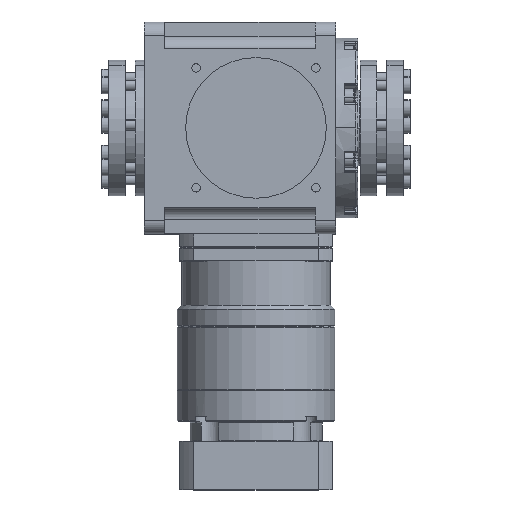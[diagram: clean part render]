
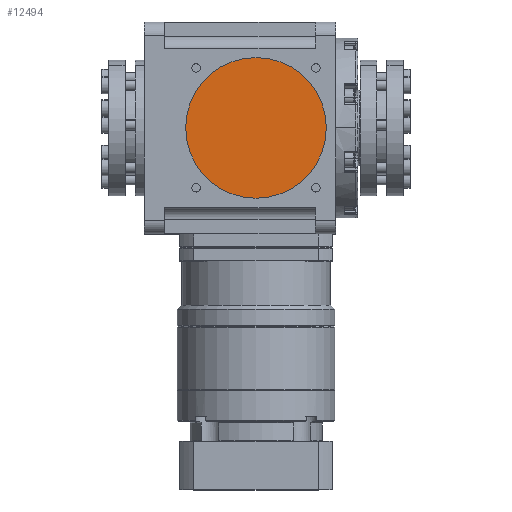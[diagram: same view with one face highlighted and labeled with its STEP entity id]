
A CAD part, top view. The second image highlights one B-rep face of the part: STEP entity #12494.
In plain terms, the highlighted planar face has unit normal (0, 0, 1).
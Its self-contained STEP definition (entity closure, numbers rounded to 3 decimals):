
#477 = DIRECTION ( 'NONE',  ( -1., 0., 0. ) ) ;
#850 = CARTESIAN_POINT ( 'NONE',  ( 60.5, 0., 58.5 ) ) ;
#1067 = ORIENTED_EDGE ( 'NONE', *, *, #7252, .T. ) ;
#3970 = DIRECTION ( 'NONE',  ( 0., 0., 1. ) ) ;
#6564 = AXIS2_PLACEMENT_3D ( 'NONE', #14465, #3970, #15994 ) ;
#7124 = ORIENTED_EDGE ( 'NONE', *, *, #15432, .T. ) ;
#7252 = EDGE_CURVE ( 'NONE', #7819, #10300, #19825, .T. ) ;
#7387 = AXIS2_PLACEMENT_3D ( 'NONE', #14826, #12392, #15295 ) ;
#7819 = VERTEX_POINT ( 'NONE', #850 ) ;
#8195 = CARTESIAN_POINT ( 'NONE',  ( 19., 0., 58.5 ) ) ;
#10300 = VERTEX_POINT ( 'NONE', #12818 ) ;
#11093 = CIRCLE ( 'NONE', #6564, 41.5 ) ;
#12284 = PLANE ( 'NONE',  #7387 ) ;
#12392 = DIRECTION ( 'NONE',  ( 0., 0., 1. ) ) ;
#12494 = ADVANCED_FACE ( 'NONE', ( #18438 ), #12284, .T. ) ;
#12765 = EDGE_LOOP ( 'NONE', ( #1067, #7124 ) ) ;
#12818 = CARTESIAN_POINT ( 'NONE',  ( -22.5, 0., 58.5 ) ) ;
#13298 = AXIS2_PLACEMENT_3D ( 'NONE', #8195, #19206, #477 ) ;
#14465 = CARTESIAN_POINT ( 'NONE',  ( 19., 0., 58.5 ) ) ;
#14826 = CARTESIAN_POINT ( 'NONE',  ( 19., 0., 58.5 ) ) ;
#15295 = DIRECTION ( 'NONE',  ( -1., 0., 0. ) ) ;
#15432 = EDGE_CURVE ( 'NONE', #10300, #7819, #11093, .T. ) ;
#15994 = DIRECTION ( 'NONE',  ( -1., 0., 0. ) ) ;
#18438 = FACE_OUTER_BOUND ( 'NONE', #12765, .T. ) ;
#19206 = DIRECTION ( 'NONE',  ( 0., 0., 1. ) ) ;
#19825 = CIRCLE ( 'NONE', #13298, 41.5 ) ;
